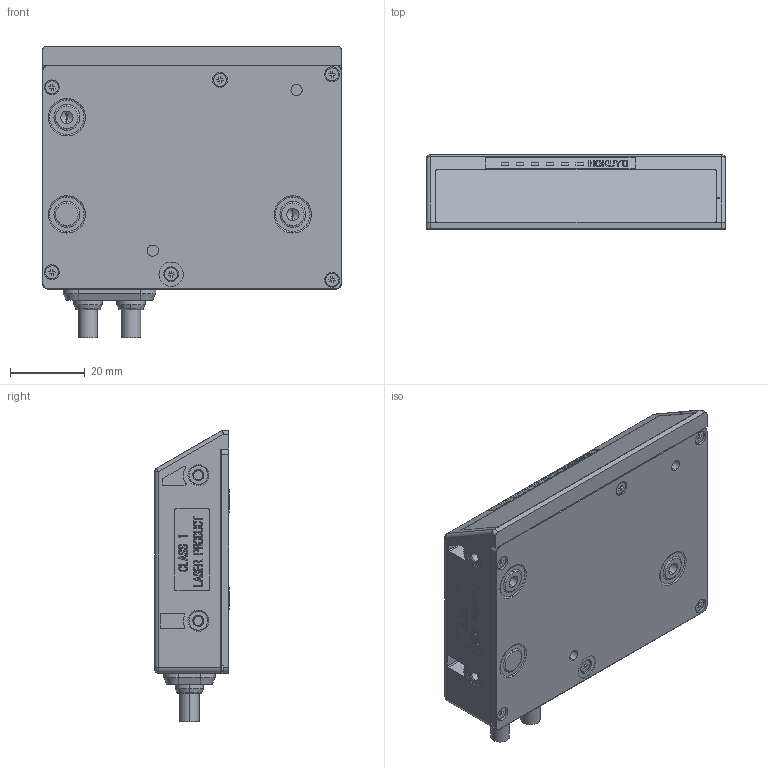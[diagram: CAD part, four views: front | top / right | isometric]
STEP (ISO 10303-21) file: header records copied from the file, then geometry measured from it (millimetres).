
FILE_DESCRIPTION (( 'STEP AP214' ), '1' );
FILE_NAME ('SWP-10090.STEP', '2025-10-17T01:38:56', ( '' ), ( '' ), 'SwSTEP 2.0', 'SolidWorks 2022', '' );
FILE_SCHEMA (( 'AUTOMOTIVE_DESIGN' ));
Length unit declared in the file: millimetre
Products named in the file (1): SWP-10090
Bounding box: 80 x 20 x 78 mm (x, y, z)
Volume: 96100.3 mm3; surface area: 16855.8 mm2
Topology: 1 solids, 1 shells, 796 faces, 2134 edges, 1434 vertices
Faces by surface type: plane 431, bspline 161, cylinder 150, cone 32, torus 20, sphere 2
Entity records: 31511 total; most frequent: CARTESIAN_POINT 11742, ORIENTED_EDGE 4256, DIRECTION 3414, EDGE_CURVE 2128, VERTEX_POINT 1434, LINE 1374, VECTOR 1374, AXIS2_PLACEMENT_3D 1020
